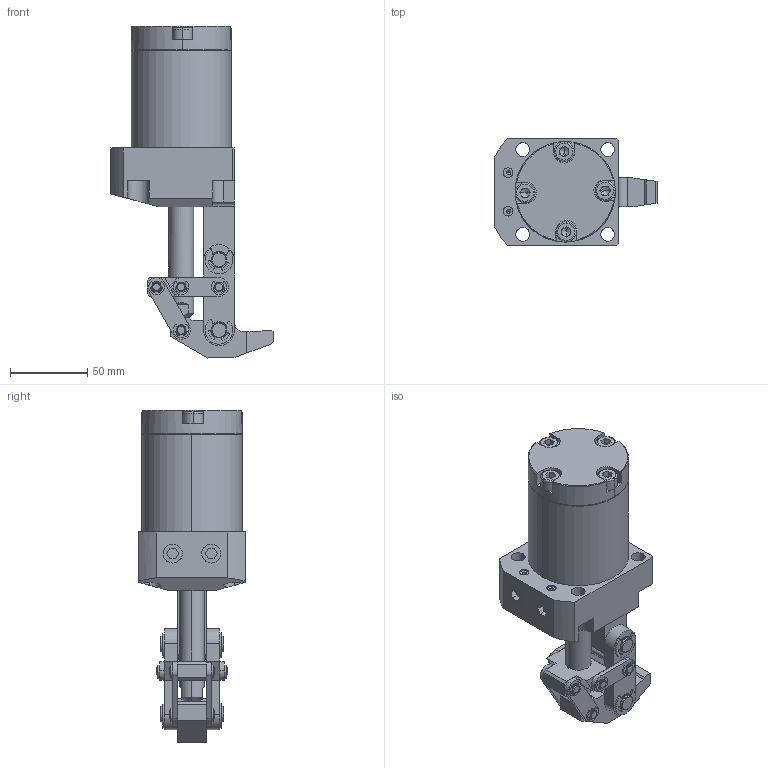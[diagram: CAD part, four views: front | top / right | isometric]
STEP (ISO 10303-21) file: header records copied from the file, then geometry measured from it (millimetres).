
FILE_DESCRIPTION (( 'STEP AP203' ), '1' );
FILE_NAME ('CLF5H-40G-00.STEP', '2013-04-28T08:01:52', ( '微软用户' ), ( '微软中国' ), 'SwSTEP 2.0', 'SolidWorks 2011', '' );
FILE_SCHEMA (( 'CONFIG_CONTROL_DESIGN' ));
Length unit declared in the file: millimetre
Products named in the file (16): CLF5H-40G-00; 錨璃1; hexagon socket head cap screws gb_GB_FASTENER_SCREWS_HSHCS M8X25-S; 縐遠10; 縐遠1; CLF5H-40G-04; CLF5H-40G-03; CLF5H-40G-02; CLF5H-40G-05; CLF5H-40G-08; CLF5H-40G-01; CLF5H-40G-07; CLF5H-40G-06; CLF5H-40G-09; CLF5H-40G-11; CLF5H-40G-10
Assembly tree (35 placements, depth 2):
  CLF5H-40G-00
    CLF5H-40G-09
    錨璃1  x2
    hexagon socket head cap screws gb_GB_FASTENER_SCREWS_HSHCS M8X25-S  x4
    縐遠10  x4
    縐遠1  x8
    CLF5H-40G-11
    CLF5H-40G-04  x2
    CLF5H-40G-03  x2
    CLF5H-40G-02  x2
    CLF5H-40G-05  x2
    CLF5H-40G-10
    CLF5H-40G-07  x2
    CLF5H-40G-08  x2
    CLF5H-40G-01
    CLF5H-40G-06
Bounding box: 105 x 69 x 215 mm (x, y, z)
Volume: 463688.5 mm3; surface area: 118879.6 mm2
Topology: 35 solids, 35 shells, 1778 faces, 4065 edges, 2399 vertices
Faces by surface type: cylinder 765, cone 616, plane 351, torus 38, bspline 8
Entity records: 23040 total; most frequent: CARTESIAN_POINT 4320, DIRECTION 3772, ORIENTED_EDGE 3220, EDGE_CURVE 1610, AXIS2_PLACEMENT_3D 1490, VERTEX_POINT 976, EDGE_LOOP 796, VECTOR 792
